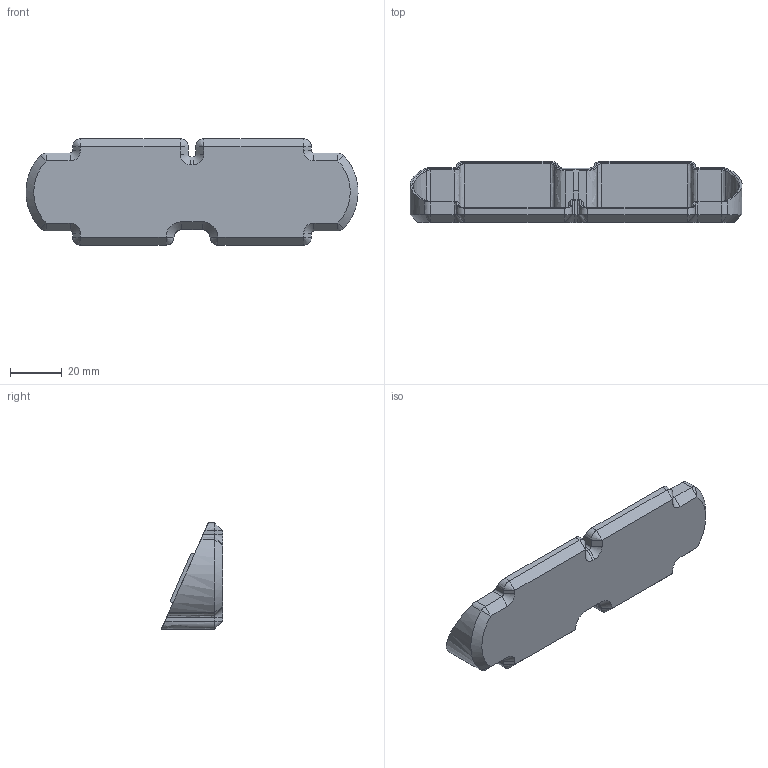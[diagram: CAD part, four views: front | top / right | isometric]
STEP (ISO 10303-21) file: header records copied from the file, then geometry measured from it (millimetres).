
FILE_DESCRIPTION (( 'STEP AP203' ), '1' );
FILE_NAME ('Behälter.STEP', '2023-02-08T22:22:48', ( '' ), ( '' ), 'SwSTEP 2.0', 'SolidWorks 2017', '' );
FILE_SCHEMA (( 'CONFIG_CONTROL_DESIGN' ));
Length unit declared in the file: millimetre
Products named in the file (1): Behälter
Bounding box: 128.12 x 23.59 x 41 mm (x, y, z)
Volume: 11135.5 mm3; surface area: 17775.2 mm2
Topology: 1 solids, 1 shells, 202 faces, 497 edges, 274 vertices
Faces by surface type: bspline 110, plane 92
Entity records: 7299 total; most frequent: CARTESIAN_POINT 3549, ORIENTED_EDGE 946, DIRECTION 481, EDGE_CURVE 473, VECTOR 295, LINE 295, VERTEX_POINT 274, EDGE_LOOP 203
